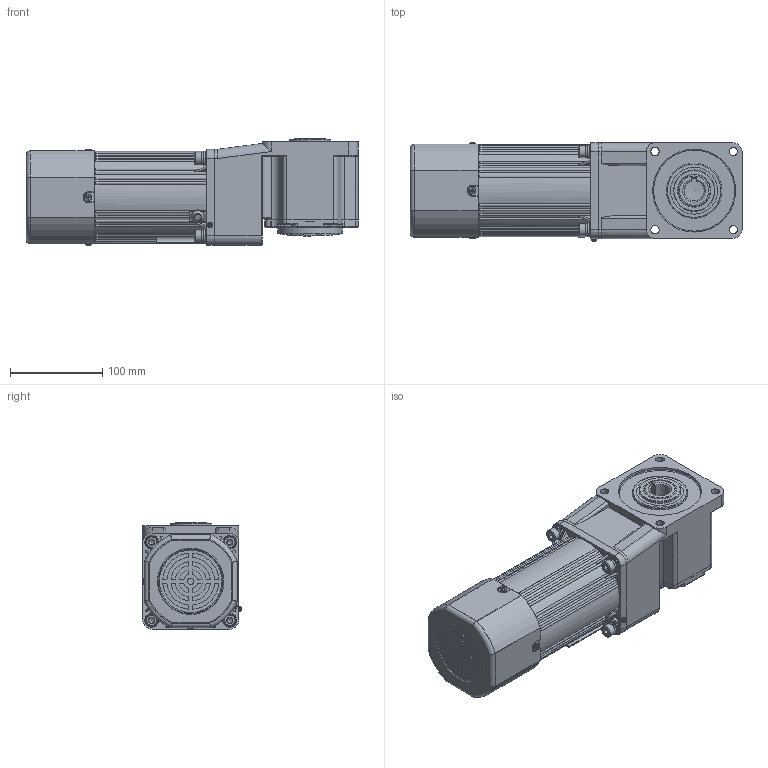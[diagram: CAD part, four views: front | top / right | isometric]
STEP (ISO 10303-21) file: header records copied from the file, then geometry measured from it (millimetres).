
FILE_DESCRIPTION(/* description */ (''),/* implementation_level */ '2;1');
FILE_NAME(/* name */ '100+直角中空-刹车调速风叶-160-250W 新版.stp',/* time_stamp */ '2025-03-25T15:43:38+08:00',/* author */ (''),/* organization */ (''),/* preprocessor_version */ 'ST-DEVELOPER v18.102',/* originating_system */ 'SIEMENS PLM Software NX 2027',/* authorisation */ '');
FILE_SCHEMA (('AP203_CONFIGURATION_CONTROLLED_3D_DESIGN_OF_MECHANICAL_PARTS_AND_ASSEMBLIES_MIM_LF { 1 0 10303 403 2 1 2}'));
Length unit declared in the file: millimetre
Products named in the file (1): 6RK160-200CC·MRF_6GU3-750K-C·15L_stp_objects
Bounding box: 360.5 x 106.83 x 115.53 mm (x, y, z)
Volume: 3418283.2 mm3; surface area: 451310.1 mm2
Topology: 24 solids, 24 shells, 1742 faces, 4500 edges, 2912 vertices
Faces by surface type: plane 764, cylinder 539, bspline 214, torus 103, cone 96, sphere 26
Full cylindrical faces by diameter (mm): 2.5 x2, 2.6 x2, 2.7 x1, 3 x1, 3.2 x2, 3.3 x6, 3.5 x6, 3.6 x4, 4 x4, 4.55 x2, 5.1 x2, 5.15 x2, 6 x10, 6.8 x12, 7 x2, 7.5 x2, 7.76 x4, 8.4 x4, 9 x13, 9.3 x1, 9.5 x4, 13 x4, 14 x8, 15 x5, 15.5 x2, 19 x2, 27 x1, 28 x1, 30 x3, 35 x1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
Entity records: 53841 total; most frequent: CARTESIAN_POINT 13569, ORIENTED_EDGE 8186, DIRECTION 7914, EDGE_CURVE 4093, AXIS2_PLACEMENT_3D 3138, VERTEX_POINT 2770, EDGE_LOOP 2208, ADVANCED_FACE 1741
